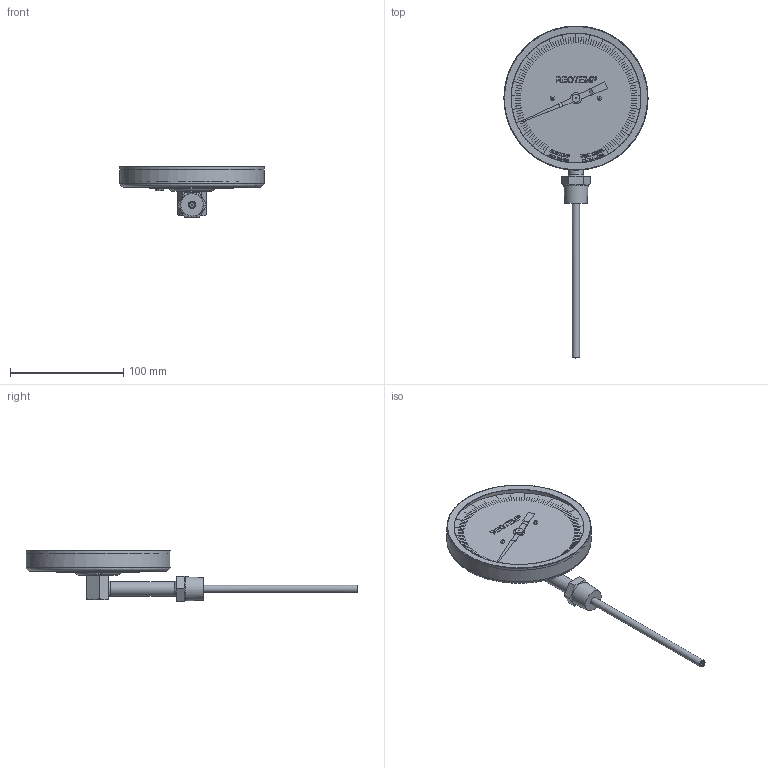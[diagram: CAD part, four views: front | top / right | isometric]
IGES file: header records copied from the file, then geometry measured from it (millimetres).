
Global section: file name: VR-half-NPT-IGS; native system: Autodesk Inventor 2014; preprocessor: unknown; author: Charles; date: 20151109.114432; units: inch
Bounding box: 127 x 292.6 x 44.94 mm (x, y, z)
Volume: 108346.7 mm3; surface area: 75280.4 mm2
Topology: 16 solids, 16 shells, 1291 faces, 3351 edges, 2232 vertices
Faces by surface type: bspline 1291
